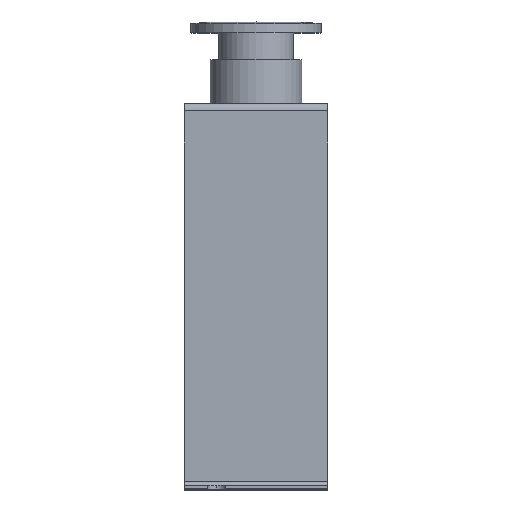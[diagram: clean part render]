
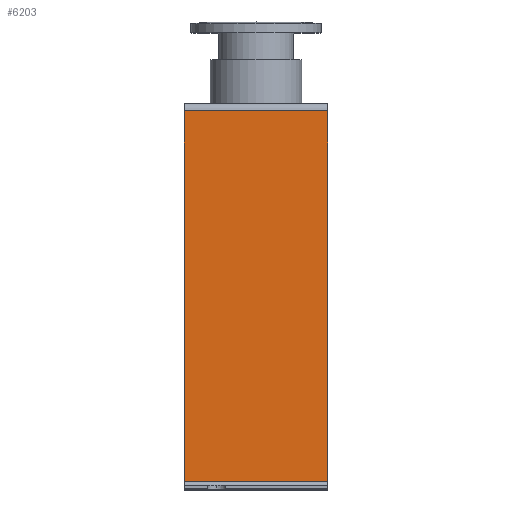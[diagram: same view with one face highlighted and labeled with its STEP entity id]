
A CAD part, top view. The second image highlights one B-rep face of the part: STEP entity #6203.
In plain terms, the highlighted planar face has unit normal (0, 0, 1).
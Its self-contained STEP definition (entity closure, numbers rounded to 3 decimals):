
#644 = LINE ( 'NONE', #14678, #12911 ) ;
#748 = DIRECTION ( 'NONE',  ( 0., 0., 1. ) ) ;
#753 = CARTESIAN_POINT ( 'NONE',  ( -44., 10.5, 75. ) ) ;
#802 = ORIENTED_EDGE ( 'NONE', *, *, #4672, .T. ) ;
#1647 = CARTESIAN_POINT ( 'NONE',  ( 0., -103., 75. ) ) ;
#2007 = LINE ( 'NONE', #5143, #18969 ) ;
#2257 = VERTEX_POINT ( 'NONE', #8601 ) ;
#3623 = EDGE_CURVE ( 'NONE', #12586, #2257, #644, .T. ) ;
#3975 = VERTEX_POINT ( 'NONE', #13446 ) ;
#4193 = CARTESIAN_POINT ( 'NONE',  ( -44., -103., 75. ) ) ;
#4537 = LINE ( 'NONE', #14471, #20852 ) ;
#4672 = EDGE_CURVE ( 'NONE', #2257, #15695, #14438, .T. ) ;
#5143 = CARTESIAN_POINT ( 'NONE',  ( 0., 12.8, 75. ) ) ;
#5860 = EDGE_LOOP ( 'NONE', ( #8545, #19062, #9018, #802 ) ) ;
#6203 = ADVANCED_FACE ( 'NONE', ( #12878 ), #17246, .T. ) ;
#7172 = VECTOR ( 'NONE', #15787, 1000. ) ;
#7874 = DIRECTION ( 'NONE',  ( 1., 0., 0. ) ) ;
#8545 = ORIENTED_EDGE ( 'NONE', *, *, #14614, .F. ) ;
#8601 = CARTESIAN_POINT ( 'NONE',  ( -44., -103., 75. ) ) ;
#9018 = ORIENTED_EDGE ( 'NONE', *, *, #3623, .T. ) ;
#10454 = DIRECTION ( 'NONE',  ( 0., -1., 0. ) ) ;
#12439 = DIRECTION ( 'NONE',  ( 0., 1., 0. ) ) ;
#12586 = VERTEX_POINT ( 'NONE', #753 ) ;
#12878 = FACE_OUTER_BOUND ( 'NONE', #5860, .T. ) ;
#12911 = VECTOR ( 'NONE', #21033, 1000. ) ;
#13446 = CARTESIAN_POINT ( 'NONE',  ( 0., 10.5, 75. ) ) ;
#14438 = LINE ( 'NONE', #4193, #7172 ) ;
#14471 = CARTESIAN_POINT ( 'NONE',  ( -44., 10.5, 75. ) ) ;
#14614 = EDGE_CURVE ( 'NONE', #3975, #15695, #2007, .T. ) ;
#14678 = CARTESIAN_POINT ( 'NONE',  ( -44., 12.8, 75. ) ) ;
#15656 = CARTESIAN_POINT ( 'NONE',  ( -44., 12.8, 75. ) ) ;
#15695 = VERTEX_POINT ( 'NONE', #1647 ) ;
#15787 = DIRECTION ( 'NONE',  ( 1., 0., 0. ) ) ;
#17246 = PLANE ( 'NONE',  #18693 ) ;
#18693 = AXIS2_PLACEMENT_3D ( 'NONE', #15656, #748, #12439 ) ;
#18969 = VECTOR ( 'NONE', #10454, 1000. ) ;
#19062 = ORIENTED_EDGE ( 'NONE', *, *, #20377, .F. ) ;
#20377 = EDGE_CURVE ( 'NONE', #12586, #3975, #4537, .T. ) ;
#20852 = VECTOR ( 'NONE', #7874, 1000. ) ;
#21033 = DIRECTION ( 'NONE',  ( 0., -1., 0. ) ) ;
